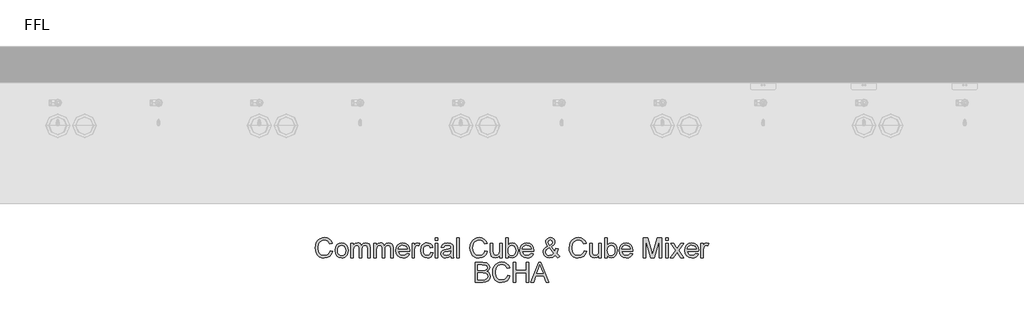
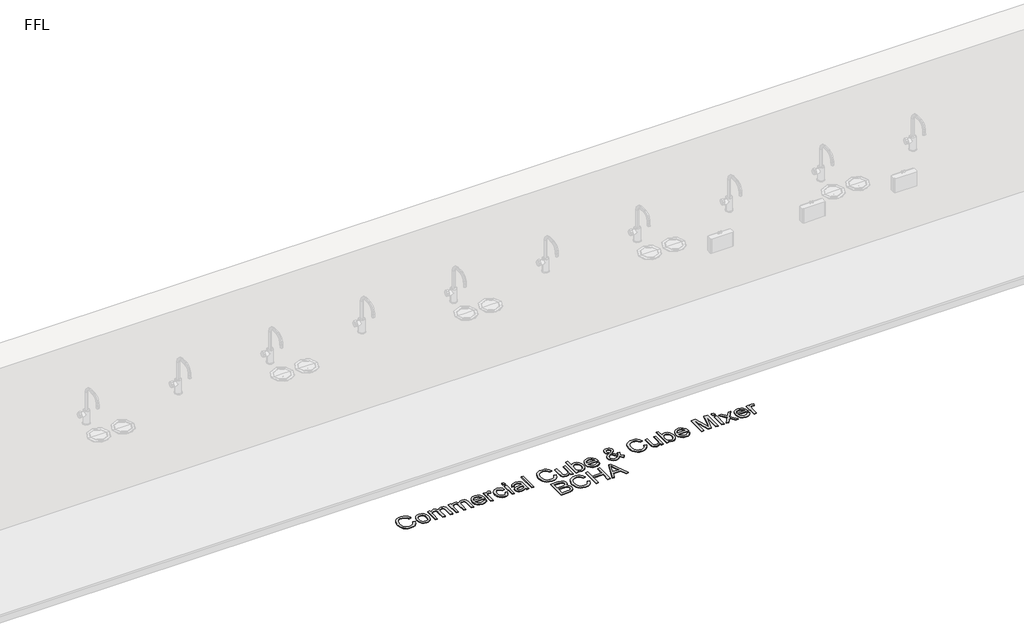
# One storey, part 9 of 14: 1 proxy.
"""IFC4 building model written with IfcOpenShell, lengths in millimetres."""

from ifc_helpers import new_model, si_unit, origin, origin_with_axes, place, context, project, spatial, polyline, outline, extrude, element, save

model = new_model("IFC4")

# Units and contexts
model_context = context("Model", 3, world=origin())
ifc_project = project(units=[si_unit("LENGTHUNIT", "METRE", prefix="MILLI")], contexts=[model_context])

# Site, building, storey
site = spatial("IfcSite", under=ifc_project)
building = spatial("IfcBuilding", under=site)
storey = spatial("IfcBuildingStorey", under=building, Name="FFL", Elevation=0.0)

# Proxy
placement = place(None, origin())
element("IfcBuildingElementProxy", 1, Name="150mm Arial", ObjectType="150mm Arial", at=placement, inside=storey, context=model_context, shape_type="SweptSolid", body=[
    extrude(outline(polyline([(-3692.4276006, -1683.6981691), (-3673.9660621, -1688.4577845), (-3682.4846919, -1709.9707052), (-3695.8530813, -1725.6873518), (-3713.4131775, -1735.301234), (-3734.5069275, -1738.5058614), (-3755.9206895, -1736.0809816), (-3772.9263986, -1728.8063422), (-3785.9612544, -1716.934347), (-3795.4624563, -1700.7173999), (-3801.2632376, -1681.6518951), (-3803.1968313, -1661.2342268), (-3801.0108337, -1639.6987701), (-3794.4528409, -1621.1020153), (-3783.865401, -1606.0344071), (-3769.5910621, -1595.0863903), (-3752.6619756, -1588.4202244), (-3734.1102929, -1586.1981691), (-3713.8684059, -1589.0737701), (-3697.1331294, -1597.700573), (-3684.4273001, -1611.5467268), (-3676.2737544, -1630.0803807), (-3694.7352929, -1634.4794191), (-3701.1355333, -1621.0163783), (-3709.8795236, -1611.7811018), (-3721.0754371, -1606.4400561), (-3734.8314467, -1604.6597076), (-3750.6878169, -1606.6338662), (-3763.7136583, -1612.5563422), (-3773.5979732, -1621.8051403), (-3780.029764, -1633.7582653), (-3784.7352929, -1661.1981691), (-3779.1643794, -1693.0010537), (-3772.0429852, -1704.8775561), (-3761.8206294, -1713.3195633), (-3749.5655212, -1718.3631331), (-3736.3458698, -1720.044323), (-3720.9357135, -1717.7546595), (-3708.0946679, -1710.8856691), (-3698.3996559, -1699.5094672), (-3692.4276006, -1683.6981691)])), origin_with_axes(), (0.0, 0.0, 1.0), 5.0),
    extrude(outline(polyline([(-3655.5045236, -1681.9673999), (-3651.5111342, -1655.8165585), (-3639.5309659, -1637.4361499), (-3624.7292833, -1628.4307412), (-3607.0069275, -1625.4289383), (-3587.6123962, -1629.0842869), (-3572.1211102, -1640.0503326), (-3561.9663626, -1657.4616908), (-3558.5814467, -1680.4529768), (-3560.0778409, -1699.1038182), (-3564.5670236, -1713.3015345), (-3571.9182857, -1723.9340465), (-3582.0009179, -1731.8892749), (-3593.9765789, -1736.8517148), (-3607.0069275, -1738.5058614), (-3626.6358337, -1734.8640345), (-3642.1090909, -1723.9385537), (-3652.1556655, -1706.1621114), (-3655.5045236, -1681.9673999)]), holes=[polyline([(-3637.0429852, -1681.9313422), (-3634.9065669, -1698.6395754), (-3628.4973121, -1710.543121), (-3618.8518794, -1717.6690225), (-3607.0069275, -1720.044323), (-3595.2160621, -1717.6555008), (-3585.5886583, -1710.4890345), (-3579.1794034, -1698.4277364), (-3577.0429852, -1681.3544191), (-3579.1929251, -1665.1329648), (-3585.6427448, -1653.3916787), (-3595.2836703, -1646.2657773), (-3607.0069275, -1643.8904768), (-3618.8518794, -1646.2567629), (-3628.4973121, -1653.355621), (-3634.9065669, -1665.2321234), (-3637.0429852, -1681.9313422)])]), origin_with_axes(), (0.0, 0.0, 1.0), 5.0),
    extrude(outline(polyline([(-3537.8122159, -1736.1981691), (-3537.8122159, -1627.7366307), (-3519.3506775, -1627.7366307), (-3519.3506775, -1645.5851883), (-3506.6583698, -1630.9637941), (-3488.5934659, -1625.4289383), (-3478.3260381, -1626.8396956), (-3470.0958698, -1631.0719672), (-3459.9276006, -1646.8832653), (-3445.5225525, -1630.7925201), (-3427.3314467, -1625.4289383), (-3413.4537424, -1627.6600081), (-3403.1908217, -1634.3532172), (-3396.8491751, -1645.6888542), (-3394.7352929, -1661.8472076), (-3394.7352929, -1736.1981691), (-3413.1968313, -1736.1981691), (-3413.1968313, -1669.7798999), (-3414.9095717, -1654.3652364), (-3421.1114948, -1646.7750922), (-3431.6583698, -1643.8904768), (-3441.6598722, -1645.7384335), (-3449.8134179, -1651.2823037), (-3455.2355934, -1660.9006932), (-3457.0429852, -1674.9722076), (-3457.0429852, -1736.1981691), (-3475.5045236, -1736.1981691), (-3475.5045236, -1667.7246114), (-3479.7773602, -1649.839996), (-3485.4158818, -1645.3778566), (-3493.7857736, -1643.8904768), (-3507.451639, -1647.856823), (-3516.5381775, -1659.4673999), (-3519.3506775, -1681.4986499), (-3519.3506775, -1736.1981691), (-3537.8122159, -1736.1981691)])), origin_with_axes(), (0.0, 0.0, 1.0), 5.0),
    extrude(outline(polyline([(-3367.0429852, -1736.1981691), (-3367.0429852, -1627.7366307), (-3348.5814467, -1627.7366307), (-3348.5814467, -1645.5851883), (-3335.889139, -1630.9637941), (-3317.8242352, -1625.4289383), (-3307.5568073, -1626.8396956), (-3299.326639, -1631.0719672), (-3289.1583698, -1646.8832653), (-3274.7533217, -1630.7925201), (-3256.5622159, -1625.4289383), (-3242.6845116, -1627.6600081), (-3232.4215909, -1634.3532172), (-3226.0799443, -1645.6888542), (-3223.9660621, -1661.8472076), (-3223.9660621, -1736.1981691), (-3242.4276006, -1736.1981691), (-3242.4276006, -1669.7798999), (-3244.1403409, -1654.3652364), (-3250.342264, -1646.7750922), (-3260.889139, -1643.8904768), (-3270.8906414, -1645.7384335), (-3279.0441871, -1651.2823037), (-3284.4663626, -1660.9006932), (-3286.2737544, -1674.9722076), (-3286.2737544, -1736.1981691), (-3304.7352929, -1736.1981691), (-3304.7352929, -1667.7246114), (-3309.0081294, -1649.839996), (-3314.646651, -1645.3778566), (-3323.0165429, -1643.8904768), (-3336.6824083, -1647.856823), (-3345.7689467, -1659.4673999), (-3348.5814467, -1681.4986499), (-3348.5814467, -1736.1981691), (-3367.0429852, -1736.1981691)])), origin_with_axes(), (0.0, 0.0, 1.0), 5.0),
    extrude(outline(polyline([(-3120.3362544, -1703.8904768), (-3102.2352929, -1706.1981691), (-3108.757228, -1719.8369912), (-3119.1643794, -1730.0323037), (-3133.2223722, -1736.387472), (-3150.6968313, -1738.5058614), (-3172.35849, -1734.8505129), (-3189.0261583, -1723.8844672), (-3199.6541631, -1706.3198638), (-3203.1968313, -1682.8688422), (-3199.6181054, -1658.6290585), (-3188.8819275, -1640.5010537), (-3172.4396198, -1629.1969672), (-3151.7425044, -1625.4289383), (-3131.6899203, -1629.1879528), (-3115.6667833, -1640.464996), (-3105.1604732, -1658.5569432), (-3101.6583698, -1682.7606691), (-3101.7665429, -1687.7366307), (-3184.7352929, -1687.7366307), (-3181.5396799, -1701.5557412), (-3174.1163025, -1711.714996), (-3163.4026607, -1717.9619912), (-3150.3362544, -1720.044323), (-3132.2352929, -1716.1861499), (-3120.3362544, -1703.8904768)]), holes=[polyline([(-3184.7352929, -1669.2750922), (-3120.1199083, -1669.2750922), (-3122.6169034, -1659.5214864), (-3127.5117352, -1652.544323), (-3138.2749563, -1646.0539383), (-3151.8146198, -1643.8904768), (-3164.2590309, -1645.6167388), (-3174.5489948, -1650.7955249), (-3181.7019395, -1658.8679408), (-3184.7352929, -1669.2750922)])]), origin_with_axes(), (0.0, 0.0, 1.0), 5.0),
    extrude(outline(polyline([(-3083.1968313, -1736.1981691), (-3083.1968313, -1627.7366307), (-3067.0429852, -1627.7366307), (-3067.0429852, -1643.7823037), (-3055.576639, -1628.9986499), (-3044.0381775, -1625.4289383), (-3025.5045236, -1631.1260537), (-3031.670389, -1647.6765345), (-3044.6511583, -1643.8904768), (-3055.0898602, -1647.5323037), (-3061.7425044, -1657.6284576), (-3064.7352929, -1679.1909576), (-3064.7352929, -1736.1981691), (-3083.1968313, -1736.1981691)])), origin_with_axes(), (0.0, 0.0, 1.0), 5.0),
    extrude(outline(polyline([(-2944.7352929, -1696.9673999), (-2926.2737544, -1699.2750922), (-2931.42099, -1715.6948638), (-2941.0934659, -1728.1032172), (-2954.3807256, -1735.9052004), (-2970.3723121, -1738.5058614), (-2990.0102328, -1734.8775561), (-3005.3663025, -1723.9926403), (-3015.2776607, -1706.3288783), (-3018.5814467, -1682.3640345), (-3012.9384179, -1651.6969672), (-3005.8170236, -1640.1990706), (-2995.7388986, -1631.9914383), (-2983.6821078, -1627.0695633), (-2970.6247159, -1625.4289383), (-2955.0252568, -1627.6825441), (-2942.5538025, -1634.4433614), (-2933.6069876, -1645.3508133), (-2928.5814467, -1660.044323), (-2947.0429852, -1662.3520153), (-2955.6066871, -1648.5238903), (-2970.4804852, -1643.8904768), (-2982.4110741, -1646.1711258), (-2991.8807256, -1653.013073), (-2998.0601126, -1664.7859095), (-3000.1199083, -1681.8592268), (-2998.1051847, -1699.1624119), (-2992.061014, -1710.9758133), (-2982.7626366, -1717.7771956), (-2970.9852929, -1720.044323), (-2961.4254972, -1718.6290585), (-2953.5874563, -1714.3832653), (-2947.8858337, -1707.1987701), (-2944.7352929, -1696.9673999)])), origin_with_axes(), (0.0, 0.0, 1.0), 5.0),
    extrude(outline(polyline([(-2910.1199083, -1606.9673999), (-2910.1199083, -1588.5058614), (-2891.6583698, -1588.5058614), (-2891.6583698, -1606.9673999), (-2910.1199083, -1606.9673999)])), origin_with_axes(), (0.0, 0.0, 1.0), 5.0),
    extrude(outline(polyline([(-2910.1199083, -1736.1981691), (-2910.1199083, -1627.7366307), (-2891.6583698, -1627.7366307), (-2891.6583698, -1736.1981691), (-2910.1199083, -1736.1981691)])), origin_with_axes(), (0.0, 0.0, 1.0), 5.0),
    extrude(outline(polyline([(-2794.7352929, -1722.3520153), (-2812.6379371, -1734.8640345), (-2832.4155813, -1738.5058614), (-2847.8437664, -1736.3153566), (-2859.2244756, -1729.7438422), (-2866.2422039, -1719.7648758), (-2868.5814467, -1707.3520153), (-2865.0477929, -1692.7486499), (-2855.7629371, -1682.1476883), (-2842.8362544, -1676.089996), (-2826.8626967, -1673.3135537), (-2794.8434659, -1666.9673999), (-2794.7352929, -1662.856823), (-2796.0063265, -1654.6176403), (-2799.8194275, -1649.2270153), (-2808.3470717, -1645.2246114), (-2820.2280813, -1643.8904768), (-2838.9059659, -1647.4421595), (-2847.8122159, -1660.044323), (-2866.2737544, -1657.7366307), (-2858.2869756, -1639.7077845), (-2842.2052448, -1629.1428807), (-2817.8482736, -1625.4289383), (-2795.4744756, -1628.7101883), (-2782.8362544, -1636.949371), (-2777.1751967, -1649.4794191), (-2776.2737544, -1665.6332653), (-2776.2737544, -1688.6020153), (-2775.3362544, -1720.6753326), (-2771.6583698, -1736.1981691), (-2790.1199083, -1736.1981691), (-2794.7352929, -1722.3520153)]), holes=[polyline([(-2794.7352929, -1685.4289383), (-2824.5189467, -1691.089996), (-2840.4023602, -1694.0827845), (-2847.5958698, -1698.950573), (-2850.1199083, -1706.0539383), (-2844.6211102, -1716.0419191), (-2828.4852929, -1720.044323), (-2809.8074083, -1715.6272557), (-2797.764139, -1704.9361499), (-2794.8434659, -1690.6573037), (-2794.7352929, -1685.4289383)])]), origin_with_axes(), (0.0, 0.0, 1.0), 5.0),
    extrude(outline(polyline([(-2750.889139, -1736.1981691), (-2750.889139, -1588.5058614), (-2732.4276006, -1588.5058614), (-2732.4276006, -1736.1981691), (-2750.889139, -1736.1981691)])), origin_with_axes(), (0.0, 0.0, 1.0), 5.0),
    extrude(outline(polyline([(-2540.889139, -1683.6981691), (-2522.4276006, -1688.4577845), (-2530.9462304, -1709.9707052), (-2544.3146198, -1725.6873518), (-2561.8747159, -1735.301234), (-2582.9684659, -1738.5058614), (-2604.382228, -1736.0809816), (-2621.3879371, -1728.8063422), (-2634.4227929, -1716.934347), (-2643.9239948, -1700.7173999), (-2649.724776, -1681.6518951), (-2651.6583698, -1661.2342268), (-2649.4723722, -1639.6987701), (-2642.9143794, -1621.1020153), (-2632.3269395, -1606.0344071), (-2618.0526006, -1595.0863903), (-2601.123514, -1588.4202244), (-2582.5718313, -1586.1981691), (-2562.3299443, -1589.0737701), (-2545.5946679, -1597.700573), (-2532.8888385, -1611.5467268), (-2524.7352929, -1630.0803807), (-2543.1968313, -1634.4794191), (-2549.5970717, -1621.0163783), (-2558.3410621, -1611.7811018), (-2569.5369756, -1606.4400561), (-2583.2929852, -1604.6597076), (-2599.1493554, -1606.6338662), (-2612.1751967, -1612.5563422), (-2622.0595116, -1621.8051403), (-2628.4913025, -1633.7582653), (-2633.1968313, -1661.1981691), (-2627.6259179, -1693.0010537), (-2620.5045236, -1704.8775561), (-2610.2821679, -1713.3195633), (-2598.0270597, -1718.3631331), (-2584.8074083, -1720.044323), (-2569.397252, -1717.7546595), (-2556.5562063, -1710.8856691), (-2546.8611943, -1699.5094672), (-2540.889139, -1683.6981691)])), origin_with_axes(), (0.0, 0.0, 1.0), 5.0),
    extrude(outline(polyline([(-2430.1199083, -1736.1981691), (-2430.1199083, -1717.5563422), (-2444.5790429, -1733.2684816), (-2463.4372159, -1738.5058614), (-2480.7989948, -1734.8279768), (-2492.7701486, -1725.5972076), (-2498.2689467, -1712.0034576), (-2499.3506775, -1694.839996), (-2499.3506775, -1627.7366307), (-2480.889139, -1627.7366307), (-2480.889139, -1686.1500922), (-2479.7713506, -1704.9722076), (-2472.4696679, -1716.0238903), (-2458.7136583, -1720.044323), (-2443.2989948, -1715.933746), (-2433.1126967, -1704.7378326), (-2430.1199083, -1684.1669191), (-2430.1199083, -1627.7366307), (-2411.6583698, -1627.7366307), (-2411.6583698, -1736.1981691), (-2430.1199083, -1736.1981691)])), origin_with_axes(), (0.0, 0.0, 1.0), 5.0),
    extrude(outline(polyline([(-2367.8122159, -1736.1981691), (-2386.2737544, -1736.1981691), (-2386.2737544, -1588.5058614), (-2367.8122159, -1588.5058614), (-2367.8122159, -1643.277496), (-2354.8855333, -1629.8910778), (-2338.8218313, -1625.4289383), (-2320.3242352, -1629.449371), (-2305.9732736, -1640.7534576), (-2297.1571679, -1658.3315826), (-2293.9660621, -1680.3448037), (-2297.2698482, -1704.9902364), (-2307.1812063, -1723.325573), (-2321.725978, -1734.7107893), (-2338.9300044, -1738.5058614), (-2355.3452688, -1733.6110297), (-2367.8122159, -1718.9265345), (-2367.8122159, -1736.1981691)]), holes=[polyline([(-2367.8122159, -1681.2101883), (-2366.5501967, -1696.606823), (-2362.764139, -1707.027496), (-2353.0916631, -1716.7901162), (-2340.5165429, -1720.044323), (-2329.8614948, -1717.6464864), (-2320.7569275, -1710.4529768), (-2314.5099323, -1698.5088662), (-2312.4276006, -1681.8592268), (-2314.4242953, -1664.966198), (-2320.4143794, -1653.1573037), (-2329.2349924, -1646.2071835), (-2339.7232736, -1643.8904768), (-2350.3783217, -1646.2883133), (-2359.482889, -1653.481823), (-2365.7298842, -1665.2095874), (-2367.8122159, -1681.2101883)])]), origin_with_axes(), (0.0, 0.0, 1.0), 5.0),
    extrude(outline(polyline([(-2197.2593313, -1703.8904768), (-2179.1583698, -1706.1981691), (-2185.6803049, -1719.8369912), (-2196.0874563, -1730.0323037), (-2210.1454491, -1736.387472), (-2227.6199083, -1738.5058614), (-2249.2815669, -1734.8505129), (-2265.9492352, -1723.8844672), (-2276.57724, -1706.3198638), (-2280.1199083, -1682.8688422), (-2276.5411823, -1658.6290585), (-2265.8050044, -1640.5010537), (-2249.3626967, -1629.1969672), (-2228.6655813, -1625.4289383), (-2208.6129972, -1629.1879528), (-2192.5898602, -1640.464996), (-2182.0835501, -1658.5569432), (-2178.5814467, -1682.7606691), (-2178.6896198, -1687.7366307), (-2261.6583698, -1687.7366307), (-2258.4627568, -1701.5557412), (-2251.0393794, -1711.714996), (-2240.3257376, -1717.9619912), (-2227.2593313, -1720.044323), (-2209.1583698, -1716.1861499), (-2197.2593313, -1703.8904768)]), holes=[polyline([(-2261.6583698, -1669.2750922), (-2197.0429852, -1669.2750922), (-2199.5399804, -1659.5214864), (-2204.4348121, -1652.544323), (-2215.1980333, -1646.0539383), (-2228.7376967, -1643.8904768), (-2241.1821078, -1645.6167388), (-2251.4720717, -1650.7955249), (-2258.6250164, -1658.8679408), (-2261.6583698, -1669.2750922)])]), origin_with_axes(), (0.0, 0.0, 1.0), 5.0),
    extrude(outline(polyline([(-2017.7280813, -1717.9529768), (-2037.3074083, -1733.3676403), (-2060.2040429, -1738.5058614), (-2080.576639, -1734.7017749), (-2096.2617352, -1723.2895153), (-2104.3476727, -1710.1555008), (-2107.0429852, -1695.5611499), (-2104.8750164, -1682.6254528), (-2098.3711102, -1671.0058614), (-2087.5583097, -1660.7113903), (-2072.4636583, -1651.7510537), (-2085.3542833, -1633.0731691), (-2088.5814467, -1619.2270153), (-2086.0393794, -1606.7600682), (-2078.4131775, -1596.0419191), (-2066.9378169, -1588.6591066), (-2052.8482736, -1586.1981691), (-2039.4438265, -1588.5509335), (-2028.7256775, -1595.6092268), (-2021.6944275, -1605.9667989), (-2019.3506775, -1618.2173999), (-2021.0859539, -1628.5028566), (-2026.2917833, -1638.013073), (-2047.1151006, -1654.7077845), (-2020.3963506, -1687.9890345), (-2012.4276006, -1667.544323), (-1993.9660621, -1671.5467268), (-2007.0189467, -1701.9433614), (-1984.7352929, -1724.2991307), (-1998.5814467, -1738.5058614), (-2017.7280813, -1717.9529768)]), holes=[polyline([(-2056.4540429, -1643.0611499), (-2041.2737544, -1631.6128326), (-2037.8122159, -1620.7414383), (-2042.373514, -1609.1488903), (-2053.7857736, -1604.6597076), (-2065.4504371, -1609.1128326), (-2070.1199083, -1619.9842268), (-2068.5333698, -1626.7450441), (-2063.7376967, -1634.263073), (-2056.4540429, -1643.0611499)]), polyline([(-2030.0958698, -1704.6476883), (-2063.0526006, -1663.5058614), (-2083.3350525, -1678.9746114), (-2088.5814467, -1693.1092268), (-2086.7875765, -1701.8171595), (-2081.4059659, -1710.8496114), (-2072.7340909, -1717.7456451), (-2061.0694275, -1720.044323), (-2044.1042833, -1715.7534576), (-2030.0958698, -1704.6476883)])]), origin_with_axes(), (0.0, 0.0, 1.0), 5.0),
    extrude(outline(polyline([(-1802.4276006, -1683.6981691), (-1783.9660621, -1688.4577845), (-1792.4846919, -1709.9707052), (-1805.8530813, -1725.6873518), (-1823.4131775, -1735.301234), (-1844.5069275, -1738.5058614), (-1865.9206895, -1736.0809816), (-1882.9263986, -1728.8063422), (-1895.9612544, -1716.934347), (-1905.4624563, -1700.7173999), (-1911.2632376, -1681.6518951), (-1913.1968313, -1661.2342268), (-1911.0108337, -1639.6987701), (-1904.4528409, -1621.1020153), (-1893.865401, -1606.0344071), (-1879.5910621, -1595.0863903), (-1862.6619756, -1588.4202244), (-1844.1102929, -1586.1981691), (-1823.8684059, -1589.0737701), (-1807.1331294, -1597.700573), (-1794.4273001, -1611.5467268), (-1786.2737544, -1630.0803807), (-1804.7352929, -1634.4794191), (-1811.1355333, -1621.0163783), (-1819.8795236, -1611.7811018), (-1831.0754371, -1606.4400561), (-1844.8314467, -1604.6597076), (-1860.6878169, -1606.6338662), (-1873.7136583, -1612.5563422), (-1883.5979732, -1621.8051403), (-1890.029764, -1633.7582653), (-1894.7352929, -1661.1981691), (-1889.1643794, -1693.0010537), (-1882.0429852, -1704.8775561), (-1871.8206294, -1713.3195633), (-1859.5655212, -1718.3631331), (-1846.3458698, -1720.044323), (-1830.9357135, -1717.7546595), (-1818.0946679, -1710.8856691), (-1808.3996559, -1699.5094672), (-1802.4276006, -1683.6981691)])), origin_with_axes(), (0.0, 0.0, 1.0), 5.0),
    extrude(outline(polyline([(-1691.6583698, -1736.1981691), (-1691.6583698, -1717.5563422), (-1706.1175044, -1733.2684816), (-1724.9756775, -1738.5058614), (-1742.3374563, -1734.8279768), (-1754.3086102, -1725.5972076), (-1759.8074083, -1712.0034576), (-1760.889139, -1694.839996), (-1760.889139, -1627.7366307), (-1742.4276006, -1627.7366307), (-1742.4276006, -1686.1500922), (-1741.3098121, -1704.9722076), (-1734.0081294, -1716.0238903), (-1720.2521198, -1720.044323), (-1704.8374563, -1715.933746), (-1694.6511583, -1704.7378326), (-1691.6583698, -1684.1669191), (-1691.6583698, -1627.7366307), (-1673.1968313, -1627.7366307), (-1673.1968313, -1736.1981691), (-1691.6583698, -1736.1981691)])), origin_with_axes(), (0.0, 0.0, 1.0), 5.0),
    extrude(outline(polyline([(-1629.3506775, -1736.1981691), (-1647.8122159, -1736.1981691), (-1647.8122159, -1588.5058614), (-1629.3506775, -1588.5058614), (-1629.3506775, -1643.277496), (-1616.4239948, -1629.8910778), (-1600.3602929, -1625.4289383), (-1581.8626967, -1629.449371), (-1567.5117352, -1640.7534576), (-1558.6956294, -1658.3315826), (-1555.5045236, -1680.3448037), (-1558.8083097, -1704.9902364), (-1568.7196679, -1723.325573), (-1583.2644395, -1734.7107893), (-1600.4684659, -1738.5058614), (-1616.8837304, -1733.6110297), (-1629.3506775, -1718.9265345), (-1629.3506775, -1736.1981691)]), holes=[polyline([(-1629.3506775, -1681.2101883), (-1628.0886583, -1696.606823), (-1624.3026006, -1707.027496), (-1614.6301246, -1716.7901162), (-1602.0550044, -1720.044323), (-1591.3999563, -1717.6464864), (-1582.295389, -1710.4529768), (-1576.0483938, -1698.5088662), (-1573.9660621, -1681.8592268), (-1575.9627568, -1664.966198), (-1581.9528409, -1653.1573037), (-1590.7734539, -1646.2071835), (-1601.2617352, -1643.8904768), (-1611.9167833, -1646.2883133), (-1621.0213506, -1653.481823), (-1627.2683458, -1665.2095874), (-1629.3506775, -1681.2101883)])]), origin_with_axes(), (0.0, 0.0, 1.0), 5.0),
    extrude(outline(polyline([(-1458.7977929, -1703.8904768), (-1440.6968313, -1706.1981691), (-1447.2187664, -1719.8369912), (-1457.6259179, -1730.0323037), (-1471.6839107, -1736.387472), (-1489.1583698, -1738.5058614), (-1510.8200284, -1734.8505129), (-1527.4876967, -1723.8844672), (-1538.1157015, -1706.3198638), (-1541.6583698, -1682.8688422), (-1538.0796438, -1658.6290585), (-1527.3434659, -1640.5010537), (-1510.9011583, -1629.1969672), (-1490.2040429, -1625.4289383), (-1470.1514587, -1629.1879528), (-1454.1283217, -1640.464996), (-1443.6220116, -1658.5569432), (-1440.1199083, -1682.7606691), (-1440.2280813, -1687.7366307), (-1523.1968313, -1687.7366307), (-1520.0012184, -1701.5557412), (-1512.5778409, -1711.714996), (-1501.8641991, -1717.9619912), (-1488.7977929, -1720.044323), (-1470.6968313, -1716.1861499), (-1458.7977929, -1703.8904768)]), holes=[polyline([(-1523.1968313, -1669.2750922), (-1458.5814467, -1669.2750922), (-1461.0784419, -1659.5214864), (-1465.9732736, -1652.544323), (-1476.7364948, -1646.0539383), (-1490.2761583, -1643.8904768), (-1502.7205693, -1645.6167388), (-1513.0105333, -1650.7955249), (-1520.163478, -1658.8679408), (-1523.1968313, -1669.2750922)])]), origin_with_axes(), (0.0, 0.0, 1.0), 5.0),
    extrude(outline(polyline([(-1361.6583698, -1736.1981691), (-1361.6583698, -1588.5058614), (-1329.8915429, -1588.5058614), (-1299.6751967, -1692.6044191), (-1293.5814467, -1714.3472076), (-1286.982889, -1690.8015345), (-1257.2713506, -1588.5058614), (-1225.5045236, -1588.5058614), (-1225.5045236, -1736.1981691), (-1243.9660621, -1736.1981691), (-1243.9660621, -1606.9673999), (-1281.0694275, -1736.1981691), (-1306.0934659, -1736.1981691), (-1343.1968313, -1606.9673999), (-1343.1968313, -1736.1981691), (-1361.6583698, -1736.1981691)])), origin_with_axes(), (0.0, 0.0, 1.0), 5.0),
    extrude(outline(polyline([(-1195.5045236, -1736.1981691), (-1195.5045236, -1627.7366307), (-1177.0429852, -1627.7366307), (-1177.0429852, -1736.1981691), (-1195.5045236, -1736.1981691)])), origin_with_axes(), (0.0, 0.0, 1.0), 5.0),
    extrude(outline(polyline([(-1195.5045236, -1606.9673999), (-1195.5045236, -1588.5058614), (-1177.0429852, -1588.5058614), (-1177.0429852, -1606.9673999), (-1195.5045236, -1606.9673999)])), origin_with_axes(), (0.0, 0.0, 1.0), 5.0),
    extrude(outline(polyline([(-1160.889139, -1736.1981691), (-1121.4420236, -1681.6789383), (-1158.5814467, -1627.7366307), (-1136.3699083, -1627.7366307), (-1118.4492352, -1653.6981691), (-1110.0838506, -1665.9577845), (-1102.8362544, -1655.933746), (-1082.4276006, -1627.7366307), (-1060.2160621, -1627.7366307), (-1099.2304852, -1681.6789383), (-1061.6583698, -1736.1981691), (-1083.8699083, -1736.1981691), (-1106.4780813, -1703.4217268), (-1110.6247159, -1697.4361499), (-1138.6776006, -1736.1981691), (-1160.889139, -1736.1981691)])), origin_with_axes(), (0.0, 0.0, 1.0), 5.0),
    extrude(outline(polyline([(-969.5670236, -1703.8904768), (-951.4660621, -1706.1981691), (-957.9879972, -1719.8369912), (-968.3951486, -1730.0323037), (-982.4531414, -1736.387472), (-999.9276006, -1738.5058614), (-1021.5892592, -1734.8505129), (-1038.2569275, -1723.8844672), (-1048.8849323, -1706.3198638), (-1052.4276006, -1682.8688422), (-1048.8488746, -1658.6290585), (-1038.1126967, -1640.5010537), (-1021.670389, -1629.1969672), (-1000.9732736, -1625.4289383), (-980.9206895, -1629.1879528), (-964.8975525, -1640.464996), (-954.3912424, -1658.5569432), (-950.889139, -1682.7606691), (-950.9973121, -1687.7366307), (-1033.9660621, -1687.7366307), (-1030.7704491, -1701.5557412), (-1023.3470717, -1711.714996), (-1012.6334299, -1717.9619912), (-999.5670236, -1720.044323), (-981.4660621, -1716.1861499), (-969.5670236, -1703.8904768)]), holes=[polyline([(-1033.9660621, -1669.2750922), (-969.3506775, -1669.2750922), (-971.8476727, -1659.5214864), (-976.7425044, -1652.544323), (-987.5057256, -1646.0539383), (-1001.045389, -1643.8904768), (-1013.4898001, -1645.6167388), (-1023.779764, -1650.7955249), (-1030.9327087, -1658.8679408), (-1033.9660621, -1669.2750922)])]), origin_with_axes(), (0.0, 0.0, 1.0), 5.0),
    extrude(outline(polyline([(-932.4276006, -1736.1981691), (-932.4276006, -1627.7366307), (-916.2737544, -1627.7366307), (-916.2737544, -1643.7823037), (-904.8074083, -1628.9986499), (-893.2689467, -1625.4289383), (-874.7352929, -1631.1260537), (-880.9011583, -1647.6765345), (-893.8819275, -1643.8904768), (-904.3206294, -1647.5323037), (-910.9732736, -1657.6284576), (-913.9660621, -1679.1909576), (-913.9660621, -1736.1981691), (-932.4276006, -1736.1981691)])), origin_with_axes(), (0.0, 0.0, 1.0), 5.0),
    extrude(outline(polyline([(-2612.4276006, -1918.5058614), (-2612.4276006, -1770.8135537), (-2556.0694275, -1770.8135537), (-2528.467264, -1775.1585057), (-2519.1914227, -1780.6708254), (-2512.1691871, -1788.5178807), (-2506.2737544, -1807.4121114), (-2511.2316871, -1824.6657172), (-2526.2136583, -1837.7366307), (-2515.7524203, -1843.199371), (-2508.0225525, -1851.5106691), (-2503.2494155, -1862.1206451), (-2501.6583698, -1874.4794191), (-2506.0033217, -1894.3291787), (-2516.7665429, -1908.4637941), (-2532.8302448, -1915.9637941), (-2556.5021198, -1918.5058614), (-2612.4276006, -1918.5058614)]), holes=[polyline([(-2593.9660621, -1830.8135537), (-2560.2521198, -1830.8135537), (-2540.5646198, -1829.2270153), (-2528.7196679, -1822.3940826), (-2524.7352929, -1810.3688422), (-2528.4492352, -1798.325573), (-2539.0862544, -1791.2041787), (-2562.8122159, -1789.2750922), (-2593.9660621, -1789.2750922), (-2593.9660621, -1830.8135537)]), polyline([(-2593.9660621, -1900.044323), (-2556.1054852, -1900.044323), (-2542.4035621, -1899.3231691), (-2530.811014, -1895.3027364), (-2523.1307256, -1887.0996114), (-2520.1199083, -1874.6597076), (-2523.6535621, -1860.308746), (-2535.1018794, -1851.7450441), (-2557.9083698, -1849.2750922), (-2593.9660621, -1849.2750922), (-2593.9660621, -1900.044323)])]), origin_with_axes(), (0.0, 0.0, 1.0), 5.0),
    extrude(outline(polyline([(-2372.4276006, -1866.0058614), (-2353.9660621, -1870.7654768), (-2362.4846919, -1892.2783975), (-2375.8530813, -1907.9950441), (-2393.4131775, -1917.6089263), (-2414.5069275, -1920.8135537), (-2435.9206895, -1918.3886739), (-2452.9263986, -1911.1140345), (-2465.9612544, -1899.2420393), (-2475.4624563, -1883.0250922), (-2481.2632376, -1863.9595874), (-2483.1968313, -1843.5419191), (-2481.0108337, -1822.0064624), (-2474.4528409, -1803.4097076), (-2463.865401, -1788.3420994), (-2449.5910621, -1777.3940826), (-2432.6619756, -1770.7279167), (-2414.1102929, -1768.5058614), (-2393.8684059, -1771.3814624), (-2377.1331294, -1780.0082653), (-2364.4273001, -1793.8544191), (-2356.2737544, -1812.388073), (-2374.7352929, -1816.7871114), (-2381.1355333, -1803.3240706), (-2389.8795236, -1794.0887941), (-2401.0754371, -1788.7477484), (-2414.8314467, -1786.9673999), (-2430.6878169, -1788.9415585), (-2443.7136583, -1794.8640345), (-2453.5979732, -1804.1128326), (-2460.029764, -1816.0659576), (-2464.7352929, -1843.5058614), (-2459.1643794, -1875.308746), (-2452.0429852, -1887.1852484), (-2441.8206294, -1895.6272557), (-2429.5655212, -1900.6708254), (-2416.3458698, -1902.3520153), (-2400.9357135, -1900.0623518), (-2388.0946679, -1893.1933614), (-2378.3996559, -1881.8171595), (-2372.4276006, -1866.0058614)])), origin_with_axes(), (0.0, 0.0, 1.0), 5.0),
    extrude(outline(polyline([(-2328.5814467, -1918.5058614), (-2328.5814467, -1770.8135537), (-2310.1199083, -1770.8135537), (-2310.1199083, -1830.8135537), (-2231.6583698, -1830.8135537), (-2231.6583698, -1770.8135537), (-2213.1968313, -1770.8135537), (-2213.1968313, -1918.5058614), (-2231.6583698, -1918.5058614), (-2231.6583698, -1849.2750922), (-2310.1199083, -1849.2750922), (-2310.1199083, -1918.5058614), (-2328.5814467, -1918.5058614)])), origin_with_axes(), (0.0, 0.0, 1.0), 5.0),
    extrude(outline(polyline([(-2198.0886583, -1918.5058614), (-2139.1343313, -1770.8135537), (-2123.4131775, -1770.8135537), (-2064.4588506, -1918.5058614), (-2083.9660621, -1918.5058614), (-2100.8771198, -1872.3520153), (-2161.7064467, -1872.3520153), (-2178.5814467, -1918.5058614), (-2198.0886583, -1918.5058614)]), holes=[polyline([(-2154.9276006, -1853.8904768), (-2107.6199083, -1853.8904768), (-2120.9251967, -1817.5803807), (-2131.2737544, -1789.2750922), (-2140.4684659, -1814.4073037), (-2154.9276006, -1853.8904768)])]), origin_with_axes(), (0.0, 0.0, 1.0), 5.0),
])

save(model, "model.ifc")
